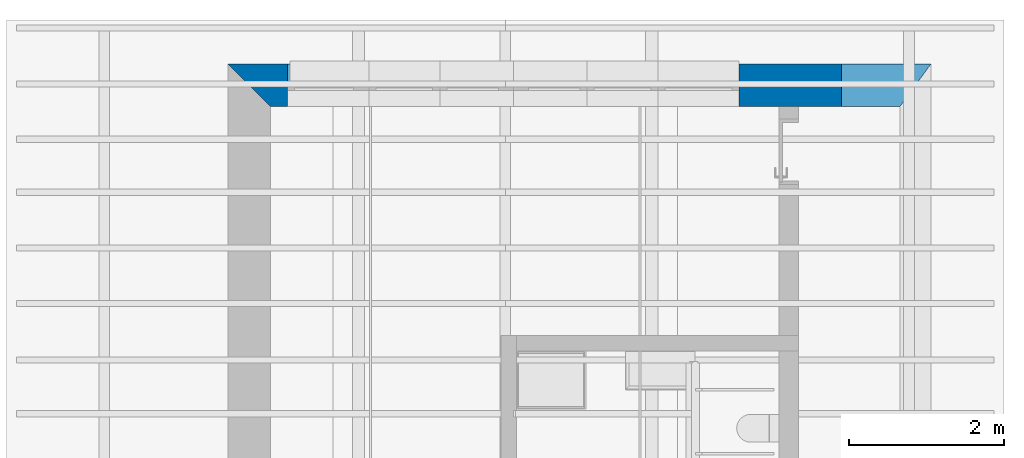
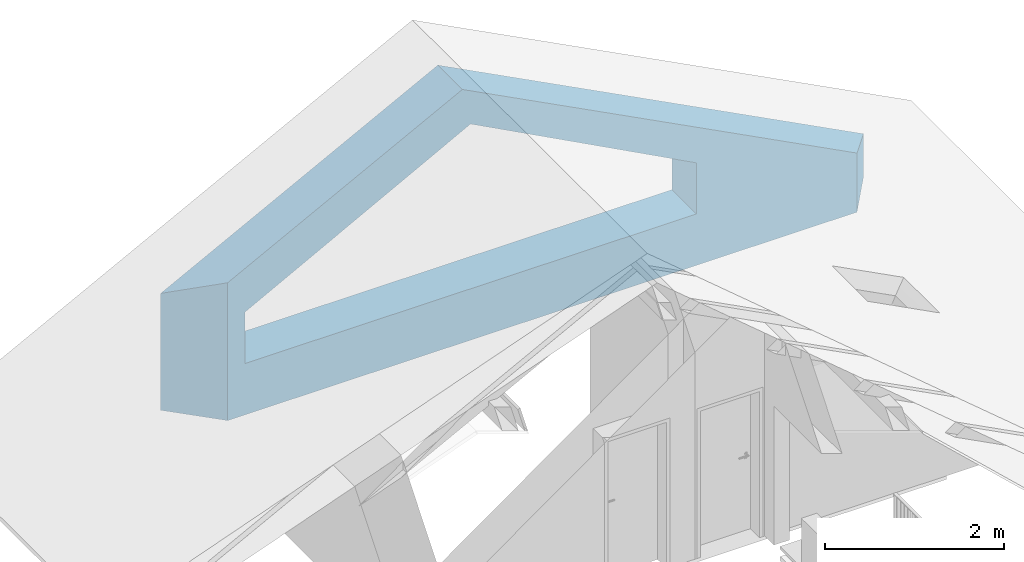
# One storey, part 13 of 18: 1 wall.
"""IFC2X3 building model written with IfcOpenShell, lengths in metres."""

from ifc_helpers import new_model, entity, si_unit, converted_unit, derived_unit, direction, frame, origin, place, context, subcontext, project, spatial, faceted_brep, material, layer, layer_set, type_object, element, save


model = new_model("IFC2X3")

# Units and contexts
model_context = context("Model", 3, precision=1e-05, world=origin(), true_north=direction((6.123233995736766e-17, 1.0)))
body_context = subcontext(model_context, "Body", "Model", "MODEL_VIEW")
ifc_project = project(units=[si_unit("LENGTHUNIT", "METRE"), si_unit("AREAUNIT", "SQUARE_METRE"), si_unit("VOLUMEUNIT", "CUBIC_METRE"), si_unit("POWERUNIT", "WATT"), derived_unit("USERDEFINED", [(si_unit("MASSUNIT", "GRAM", prefix="KILO"), 1), (si_unit("TIMEUNIT", "SECOND"), -3)]), derived_unit("THERMALRESISTANCEUNIT", [(si_unit("MASSUNIT", "GRAM", prefix="KILO"), -1), (si_unit("TIMEUNIT", "SECOND"), 3), (si_unit("THERMODYNAMICTEMPERATUREUNIT", "KELVIN"), 1)]), derived_unit("USERDEFINED", [(si_unit("MASSUNIT", "GRAM", prefix="KILO"), 1), (si_unit("TIMEUNIT", "SECOND"), -2), (si_unit("THERMODYNAMICTEMPERATUREUNIT", "KELVIN"), -1)]), derived_unit("THERMALTRANSMITTANCEUNIT", [(si_unit("MASSUNIT", "GRAM", prefix="KILO"), 1), (si_unit("TIMEUNIT", "SECOND"), -3), (si_unit("THERMODYNAMICTEMPERATUREUNIT", "KELVIN"), -1)]), converted_unit("PLANEANGLEUNIT", "DEGREE", entity("IfcPlaneAngleMeasure", 0.017453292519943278), si_unit("PLANEANGLEUNIT", "RADIAN"), dimensions=[0, 0, 0, 0, 0, 0, 0]), derived_unit("MOMENTOFINERTIAUNIT", [(si_unit("LENGTHUNIT", "METRE"), 4)])], contexts=[model_context])

# Site, building, storey
site_placement = place(None, origin())
site = spatial("IfcSite", under=ifc_project, at=site_placement, Name="Default", CompositionType="ELEMENT")
building_placement = place(site_placement, origin())
building = spatial("IfcBuilding", under=site, at=building_placement, CompositionType="ELEMENT")
storey_placement = place(building_placement, frame((0.0, 0.0, 5.4)))
storey = spatial("IfcBuildingStorey", under=building, at=storey_placement, Name="1. Obergeschoss", CompositionType="ELEMENT", Elevation=5.4)

# Wall
ifc_material_1 = material(Name="Dämmung - hart")
ifc_layer_1 = layer(ifc_material_1, 0.24999999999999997)
ifc_material_2 = material(Name="Mauerwerk - Ziegel")
ifc_layer_2 = layer(ifc_material_2, 0.29999999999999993)
ifc_layer_set = layer_set([ifc_layer_1, ifc_layer_2], Name="Basiswand:Ziegel+WD hart 300+250")
wall_type = type_object("IfcWallType", Name="Basiswand:Ziegel+WD hart 300+250", PredefinedType="STANDARD", material=ifc_layer_set)
wall_placement = place(storey_placement, frame((38.62672000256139, 28.317272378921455, 0.0), z_axis=(0.0, 0.0, 1.0), x_axis=(-1.0, 0.0, 0.0)))
element("IfcWall", 1, at=wall_placement, inside=storey, type_object=wall_type, Name="Basiswand:Ziegel+WD hart 300+250", ObjectType="Basiswand:Ziegel+WD hart 300+250", context=body_context, shape_type="Brep", body=[
    faceted_brep([(0.0, -0.2750000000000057, 0.0), (9.09000000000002, -0.27500000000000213, 0.0), (9.090000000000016, -0.27500000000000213, 1.5985032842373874), (5.504190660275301, -0.2750000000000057, 3.4651574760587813), (0.0, -0.2750000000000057, 0.599857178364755), (8.318759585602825, -0.2750000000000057, 1.3824999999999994), (8.318759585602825, -0.2750000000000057, 0.7024999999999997), (2.4787499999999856, -0.2750000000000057, 0.702499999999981), (2.4787499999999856, -0.2750000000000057, 1.3824999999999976), (5.398754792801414, -0.2750000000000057, 2.9350940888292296), (8.540000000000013, 0.274999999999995, 0.0), (1.96145942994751, 0.2749999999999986, 0.0), (1.71145942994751, 0.274999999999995, 0.0), (0.40000000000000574, 0.274999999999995, 0.0), (0.40000000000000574, 0.274999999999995, 0.8080839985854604), (1.71145942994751, 0.274999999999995, 1.4907865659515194), (1.96145942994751, 0.2749999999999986, 1.6209283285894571), (5.504190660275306, 0.274999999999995, 3.465157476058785), (8.540000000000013, 0.274999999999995, 1.8848151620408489), (5.39876132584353, 0.274999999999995, 2.9551026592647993), (2.4787499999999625, 0.274999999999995, 1.4024999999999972), (2.478749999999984, 0.274999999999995, 0.702499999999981), (3.5287499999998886, 0.2749999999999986, 0.7024999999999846), (4.448749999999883, 0.2749999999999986, 0.7024999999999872), (5.398750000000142, 0.274999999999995, 0.7024999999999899), (6.348750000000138, 0.274999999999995, 0.7024999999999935), (7.268750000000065, 0.274999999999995, 0.7024999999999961), (8.318759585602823, 0.274999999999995, 0.7024999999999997), (8.318750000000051, 0.274999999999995, 1.4024999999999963), (5.39875000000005, -0.025000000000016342, 2.9551239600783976), (8.318750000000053, -0.025000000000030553, 1.4024999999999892), (8.318759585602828, -0.025000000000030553, 1.3824999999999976), (5.398750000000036, -0.025000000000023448, 2.935091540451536), (2.4787499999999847, -0.025000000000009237, 1.3824999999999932), (2.4787499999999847, -0.025000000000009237, 1.4024999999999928)], [[[0, 1, 2, 3, 4], [5, 6, 7, 8, 9]], [[10, 11, 12, 13, 14, 15, 16, 17, 18], [19, 20, 21, 22, 23, 24, 25, 26, 27, 28]], [[0, 4, 14, 13]], [[2, 1, 10, 18]], [[4, 3, 17, 16, 15, 14]], [[3, 2, 18, 17]], [[29, 30, 31, 32, 33, 34]], [[28, 30, 29, 19]], [[29, 34, 20, 19]], [[1, 0, 13, 12, 11, 10]], [[30, 28, 27, 6, 5, 31]], [[7, 6, 27, 26, 25, 24, 23, 22, 21]], [[20, 34, 33, 8, 7, 21]], [[9, 8, 33, 32]], [[5, 9, 32, 31]]]),
])

save(model, "model.ifc")
